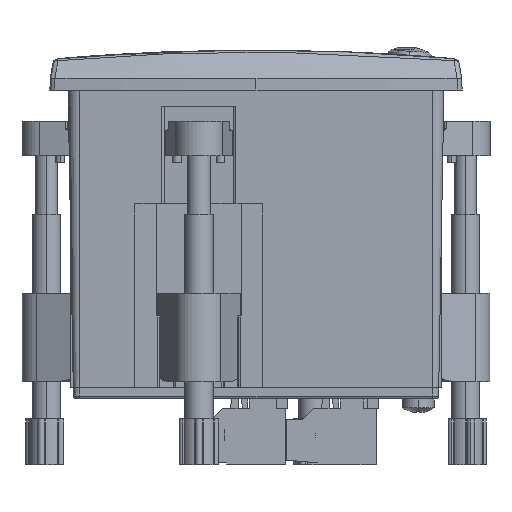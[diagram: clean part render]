
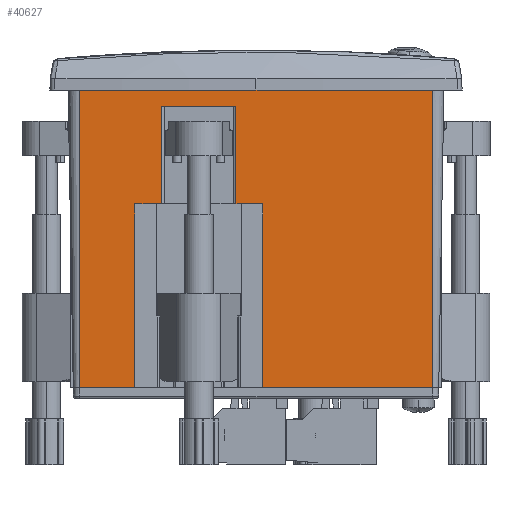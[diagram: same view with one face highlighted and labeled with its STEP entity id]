
A CAD part, left-side view. The second image highlights one B-rep face of the part: STEP entity #40627.
In plain terms, the highlighted planar face has unit normal (-1, 0, -0.018).
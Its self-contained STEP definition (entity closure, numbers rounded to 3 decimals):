
#456 = VECTOR ( 'NONE', #31018, 1000. ) ;
#3459 = DIRECTION ( 'NONE',  ( 0.017, 0., -1. ) ) ;
#4909 = LINE ( 'NONE', #132855, #62640 ) ;
#6364 = CARTESIAN_POINT ( 'NONE',  ( -66.967, -1.2, -52. ) ) ;
#6975 = CARTESIAN_POINT ( 'NONE',  ( -66.967, 30.85, -52. ) ) ;
#8884 = LINE ( 'NONE', #138371, #136004 ) ;
#11250 = ORIENTED_EDGE ( 'NONE', *, *, #59956, .T. ) ;
#11752 = VECTOR ( 'NONE', #3459, 1000. ) ;
#16311 = FACE_OUTER_BOUND ( 'NONE', #95137, .T. ) ;
#20299 = DIRECTION ( 'NONE',  ( 0., 1., 0. ) ) ;
#24837 = VERTEX_POINT ( 'NONE', #113543 ) ;
#24870 = DIRECTION ( 'NONE',  ( 0., 1., 0. ) ) ;
#26354 = CARTESIAN_POINT ( 'NONE',  ( -67.527, -1.2, -19.918 ) ) ;
#27400 = VECTOR ( 'NONE', #31564, 1000. ) ;
#28551 = DIRECTION ( 'NONE',  ( 0., -1., 0. ) ) ;
#28628 = LINE ( 'NONE', #94050, #119151 ) ;
#30729 = VERTEX_POINT ( 'NONE', #50443 ) ;
#31018 = DIRECTION ( 'NONE',  ( -0.017, 0., 1. ) ) ;
#31564 = DIRECTION ( 'NONE',  ( -0.017, 0., 1. ) ) ;
#32075 = ORIENTED_EDGE ( 'NONE', *, *, #93994, .F. ) ;
#33157 = LINE ( 'NONE', #80037, #456 ) ;
#35264 = VECTOR ( 'NONE', #118488, 1000. ) ;
#35896 = LINE ( 'NONE', #40140, #97521 ) ;
#37208 = ORIENTED_EDGE ( 'NONE', *, *, #155063, .T. ) ;
#39233 = LINE ( 'NONE', #64892, #133597 ) ;
#40140 = CARTESIAN_POINT ( 'NONE',  ( -67.28, 16.5, -34.076 ) ) ;
#40627 = ADVANCED_FACE ( 'NONE', ( #16311 ), #137590, .T. ) ;
#41005 = ORIENTED_EDGE ( 'NONE', *, *, #101990, .F. ) ;
#41360 = CARTESIAN_POINT ( 'NONE',  ( -67.875, 30.85, 0. ) ) ;
#46359 = CARTESIAN_POINT ( 'NONE',  ( -67.527, 16.5, -19.918 ) ) ;
#46824 = ORIENTED_EDGE ( 'NONE', *, *, #133727, .F. ) ;
#47976 = AXIS2_PLACEMENT_3D ( 'NONE', #64288, #150516, #76684 ) ;
#49514 = VERTEX_POINT ( 'NONE', #26354 ) ;
#50236 = VECTOR ( 'NONE', #145982, 1000. ) ;
#50443 = CARTESIAN_POINT ( 'NONE',  ( -67.823, 3.5, -2.955 ) ) ;
#53936 = LINE ( 'NONE', #124780, #119381 ) ;
#56085 = VERTEX_POINT ( 'NONE', #147504 ) ;
#57819 = CARTESIAN_POINT ( 'NONE',  ( -66.967, 21.2, -52. ) ) ;
#57874 = CARTESIAN_POINT ( 'NONE',  ( -67.823, 16.5, -2.955 ) ) ;
#57959 = VERTEX_POINT ( 'NONE', #71144 ) ;
#59772 = CARTESIAN_POINT ( 'NONE',  ( -67.527, 30.85, -19.918 ) ) ;
#59956 = EDGE_CURVE ( 'NONE', #148691, #57959, #71864, .T. ) ;
#62640 = VECTOR ( 'NONE', #96191, 1000. ) ;
#64288 = CARTESIAN_POINT ( 'NONE',  ( -67.875, 30.85, 0. ) ) ;
#64892 = CARTESIAN_POINT ( 'NONE',  ( -67.823, 16., -2.955 ) ) ;
#71144 = CARTESIAN_POINT ( 'NONE',  ( -67.875, -30.85, 0. ) ) ;
#71864 = LINE ( 'NONE', #78595, #35264 ) ;
#73072 = VECTOR ( 'NONE', #90283, 1000. ) ;
#74767 = LINE ( 'NONE', #85397, #136428 ) ;
#75303 = VERTEX_POINT ( 'NONE', #146799 ) ;
#75361 = CARTESIAN_POINT ( 'NONE',  ( -66.967, -30.85, -52. ) ) ;
#75459 = LINE ( 'NONE', #147117, #154472 ) ;
#76684 = DIRECTION ( 'NONE',  ( -0.017, 0., 1. ) ) ;
#77920 = CARTESIAN_POINT ( 'NONE',  ( -67.875, 21.2, 0. ) ) ;
#78595 = CARTESIAN_POINT ( 'NONE',  ( -67.875, -30.85, 0. ) ) ;
#80037 = CARTESIAN_POINT ( 'NONE',  ( -67.875, 30.85, 0. ) ) ;
#81407 = EDGE_CURVE ( 'NONE', #24837, #30729, #125649, .T. ) ;
#82878 = LINE ( 'NONE', #59772, #50236 ) ;
#85397 = CARTESIAN_POINT ( 'NONE',  ( -67.527, 2.6, -19.918 ) ) ;
#89142 = DIRECTION ( 'NONE',  ( 0., 1., 0. ) ) ;
#90283 = DIRECTION ( 'NONE',  ( -0.017, 0., 1. ) ) ;
#92974 = CARTESIAN_POINT ( 'NONE',  ( -67.28, 3.5, -34.076 ) ) ;
#93994 = EDGE_CURVE ( 'NONE', #148691, #99607, #75459, .T. ) ;
#94050 = CARTESIAN_POINT ( 'NONE',  ( -66.967, -28.35, -52. ) ) ;
#95137 = EDGE_LOOP ( 'NONE', ( #114617, #108840, #130653, #153386, #146736, #32075, #11250, #37208, #41005, #136462, #124667, #139063, #46824, #128095 ) ) ;
#96191 = DIRECTION ( 'NONE',  ( 0., 1., 0. ) ) ;
#97521 = VECTOR ( 'NONE', #138082, 1000. ) ;
#97801 = DIRECTION ( 'NONE',  ( 0., 1., 0. ) ) ;
#99607 = VERTEX_POINT ( 'NONE', #6364 ) ;
#101154 = EDGE_CURVE ( 'NONE', #145102, #24837, #4909, .T. ) ;
#101990 = EDGE_CURVE ( 'NONE', #118165, #106879, #33157, .T. ) ;
#102310 = EDGE_CURVE ( 'NONE', #49514, #99607, #142718, .T. ) ;
#104354 = EDGE_CURVE ( 'NONE', #56085, #75303, #8884, .T. ) ;
#104647 = VERTEX_POINT ( 'NONE', #46359 ) ;
#106879 = VERTEX_POINT ( 'NONE', #41360 ) ;
#108840 = ORIENTED_EDGE ( 'NONE', *, *, #81407, .F. ) ;
#113543 = CARTESIAN_POINT ( 'NONE',  ( -67.527, 3.5, -19.918 ) ) ;
#113794 = EDGE_CURVE ( 'NONE', #153466, #118165, #28628, .T. ) ;
#114617 = ORIENTED_EDGE ( 'NONE', *, *, #130751, .F. ) ;
#117796 = CARTESIAN_POINT ( 'NONE',  ( -67.527, 2.6, -19.918 ) ) ;
#118165 = VERTEX_POINT ( 'NONE', #6975 ) ;
#118488 = DIRECTION ( 'NONE',  ( -0.017, 0., 1. ) ) ;
#119151 = VECTOR ( 'NONE', #20299, 1000. ) ;
#119381 = VECTOR ( 'NONE', #136641, 1000. ) ;
#122385 = VERTEX_POINT ( 'NONE', #57874 ) ;
#123876 = EDGE_CURVE ( 'NONE', #153466, #56085, #138532, .T. ) ;
#124667 = ORIENTED_EDGE ( 'NONE', *, *, #123876, .T. ) ;
#124780 = CARTESIAN_POINT ( 'NONE',  ( -67.875, 30.85, 0. ) ) ;
#125491 = EDGE_CURVE ( 'NONE', #104647, #122385, #35896, .T. ) ;
#125649 = LINE ( 'NONE', #92974, #27400 ) ;
#128095 = ORIENTED_EDGE ( 'NONE', *, *, #125491, .T. ) ;
#130653 = ORIENTED_EDGE ( 'NONE', *, *, #101154, .F. ) ;
#130751 = EDGE_CURVE ( 'NONE', #30729, #122385, #39233, .T. ) ;
#131465 = EDGE_CURVE ( 'NONE', #145102, #49514, #82878, .T. ) ;
#132855 = CARTESIAN_POINT ( 'NONE',  ( -67.527, 2.6, -19.918 ) ) ;
#133597 = VECTOR ( 'NONE', #89142, 1000. ) ;
#133727 = EDGE_CURVE ( 'NONE', #104647, #75303, #74767, .T. ) ;
#136004 = VECTOR ( 'NONE', #28551, 1000. ) ;
#136428 = VECTOR ( 'NONE', #97801, 1000. ) ;
#136462 = ORIENTED_EDGE ( 'NONE', *, *, #113794, .F. ) ;
#136641 = DIRECTION ( 'NONE',  ( 0., 1., 0. ) ) ;
#137590 = PLANE ( 'NONE',  #47976 ) ;
#138026 = CARTESIAN_POINT ( 'NONE',  ( -67.875, -1.2, 0. ) ) ;
#138082 = DIRECTION ( 'NONE',  ( -0.017, 0., 1. ) ) ;
#138371 = CARTESIAN_POINT ( 'NONE',  ( -67.527, 30.85, -19.918 ) ) ;
#138532 = LINE ( 'NONE', #77920, #73072 ) ;
#139063 = ORIENTED_EDGE ( 'NONE', *, *, #104354, .T. ) ;
#142718 = LINE ( 'NONE', #138026, #11752 ) ;
#145102 = VERTEX_POINT ( 'NONE', #117796 ) ;
#145982 = DIRECTION ( 'NONE',  ( 0., -1., 0. ) ) ;
#146736 = ORIENTED_EDGE ( 'NONE', *, *, #102310, .T. ) ;
#146799 = CARTESIAN_POINT ( 'NONE',  ( -67.527, 17.4, -19.918 ) ) ;
#147117 = CARTESIAN_POINT ( 'NONE',  ( -66.967, -28.35, -52. ) ) ;
#147504 = CARTESIAN_POINT ( 'NONE',  ( -67.527, 21.2, -19.918 ) ) ;
#148691 = VERTEX_POINT ( 'NONE', #75361 ) ;
#150516 = DIRECTION ( 'NONE',  ( -1., 0., -0.017 ) ) ;
#153386 = ORIENTED_EDGE ( 'NONE', *, *, #131465, .T. ) ;
#153466 = VERTEX_POINT ( 'NONE', #57819 ) ;
#154472 = VECTOR ( 'NONE', #24870, 1000. ) ;
#155063 = EDGE_CURVE ( 'NONE', #57959, #106879, #53936, .T. ) ;
